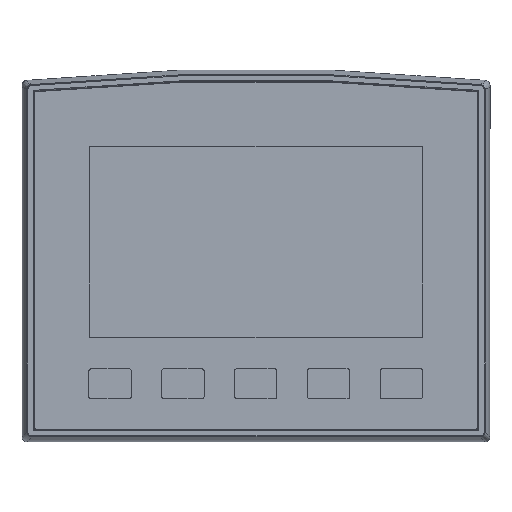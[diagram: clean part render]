
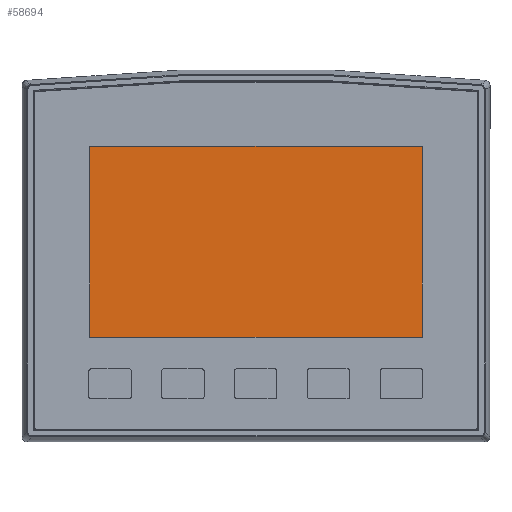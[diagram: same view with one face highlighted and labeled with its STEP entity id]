
A CAD part, top view. The second image highlights one B-rep face of the part: STEP entity #58694.
In plain terms, the highlighted planar face has unit normal (0, 0, 1).
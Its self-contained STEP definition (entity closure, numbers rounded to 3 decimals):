
#334 = LINE ( 'NONE', #31497, #15742 ) ;
#1305 = VECTOR ( 'NONE', #68386, 1000. ) ;
#1904 = VECTOR ( 'NONE', #50360, 1000. ) ;
#2501 = VERTEX_POINT ( 'NONE', #71860 ) ;
#4711 = ORIENTED_EDGE ( 'NONE', *, *, #69196, .T. ) ;
#6318 = LINE ( 'NONE', #43171, #13932 ) ;
#6373 = ORIENTED_EDGE ( 'NONE', *, *, #22795, .T. ) ;
#6757 = VERTEX_POINT ( 'NONE', #60831 ) ;
#9364 = EDGE_CURVE ( 'NONE', #2501, #55440, #48972, .T. ) ;
#12671 = DIRECTION ( 'NONE',  ( -0.707, 0.707, 0. ) ) ;
#13763 = ORIENTED_EDGE ( 'NONE', *, *, #53603, .T. ) ;
#13932 = VECTOR ( 'NONE', #37076, 1000. ) ;
#15742 = VECTOR ( 'NONE', #42871, 1000. ) ;
#18321 = FACE_OUTER_BOUND ( 'NONE', #67898, .T. ) ;
#18982 = CARTESIAN_POINT ( 'NONE',  ( 116.35, 85.88, 68.986 ) ) ;
#22795 = EDGE_CURVE ( 'NONE', #55440, #52897, #36556, .T. ) ;
#29572 = AXIS2_PLACEMENT_3D ( 'NONE', #68135, #42213, #12671 ) ;
#31497 = CARTESIAN_POINT ( 'NONE',  ( 19.65, 30.38, 68.986 ) ) ;
#36556 = LINE ( 'NONE', #67749, #1904 ) ;
#37076 = DIRECTION ( 'NONE',  ( 0., 1., 0. ) ) ;
#39253 = CARTESIAN_POINT ( 'NONE',  ( 19.65, 85.88, 68.986 ) ) ;
#42213 = DIRECTION ( 'NONE',  ( 0., 0., 1. ) ) ;
#42871 = DIRECTION ( 'NONE',  ( 1., 0., 0. ) ) ;
#43171 = CARTESIAN_POINT ( 'NONE',  ( 116.35, 30.38, 68.986 ) ) ;
#48972 = LINE ( 'NONE', #18982, #1305 ) ;
#50360 = DIRECTION ( 'NONE',  ( 0., -1., 0. ) ) ;
#52897 = VERTEX_POINT ( 'NONE', #53008 ) ;
#53008 = CARTESIAN_POINT ( 'NONE',  ( 19.65, 30.38, 68.986 ) ) ;
#53603 = EDGE_CURVE ( 'NONE', #6757, #2501, #6318, .T. ) ;
#55189 = PLANE ( 'NONE',  #29572 ) ;
#55440 = VERTEX_POINT ( 'NONE', #39253 ) ;
#58694 = ADVANCED_FACE ( 'NONE', ( #18321 ), #55189, .T. ) ;
#60831 = CARTESIAN_POINT ( 'NONE',  ( 116.35, 30.38, 68.986 ) ) ;
#64040 = ORIENTED_EDGE ( 'NONE', *, *, #9364, .T. ) ;
#67749 = CARTESIAN_POINT ( 'NONE',  ( 19.65, 85.88, 68.986 ) ) ;
#67898 = EDGE_LOOP ( 'NONE', ( #64040, #6373, #4711, #13763 ) ) ;
#68135 = CARTESIAN_POINT ( 'NONE',  ( 9.145, 96.4, 68.986 ) ) ;
#68386 = DIRECTION ( 'NONE',  ( -1., 0., 0. ) ) ;
#69196 = EDGE_CURVE ( 'NONE', #52897, #6757, #334, .T. ) ;
#71860 = CARTESIAN_POINT ( 'NONE',  ( 116.35, 85.88, 68.986 ) ) ;
